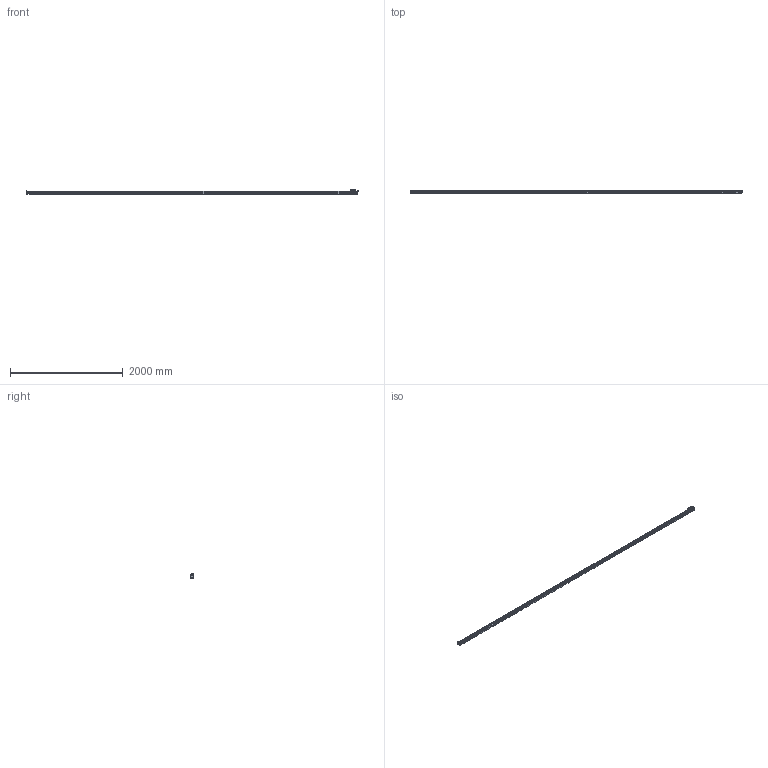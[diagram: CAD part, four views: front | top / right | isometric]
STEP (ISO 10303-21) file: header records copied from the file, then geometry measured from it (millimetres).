
FILE_DESCRIPTION(('Creo Elements/Direct Modeling STEP Export'),'2;1');
FILE_NAME('REGLA_L3_5640.stp','2021-02-03T12:01:37',(''),(''),'Creo Elements/Direct Modeling STEP processor for AP214 (Solid Model)','Creo Elements/Direct Modeling 19.0G 27-Nov-2017 (C) Parametric Technology GmbH','');
FILE_SCHEMA(('AUTOMOTIVE_DESIGN { 1 0 10303 214 1 1 1 1 }'));
Length unit declared in the file: millimetre
Products named in the file (3): CABEZA_L3_M8; PERFIL_L3_5640; MOD_L3_5640
Assembly tree (2 placements, depth 2):
  MOD_L3_5640
    PERFIL_L3_5640
    CABEZA_L3_M8
Bounding box: 5890 x 50 x 85 mm (x, y, z)
Volume: 15284747.4 mm3; surface area: 1707887.8 mm2
Topology: 2 solids, 2 shells, 2220 faces, 6389 edges, 4270 vertices
Faces by surface type: plane 1121, cylinder 771, cone 213, bspline 59, torus 50, extrusion 6
Entity records: 88836 total; most frequent: CARTESIAN_POINT 25435, ORIENTED_EDGE 12762, DIRECTION 11274, EDGE_CURVE 6381, VERTEX_POINT 4270, VECTOR 4018, LINE 4012, AXIS2_PLACEMENT_3D 3628
